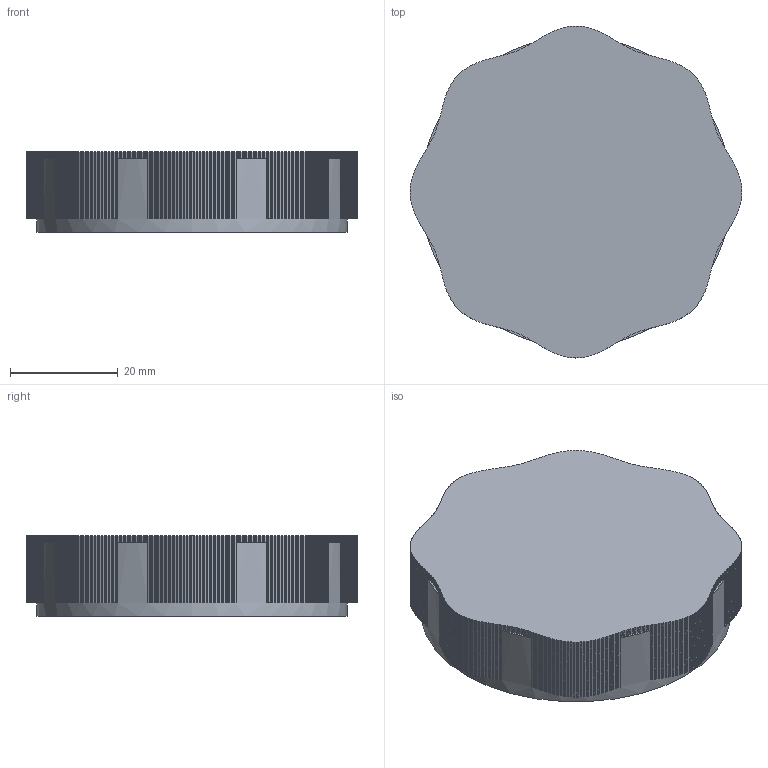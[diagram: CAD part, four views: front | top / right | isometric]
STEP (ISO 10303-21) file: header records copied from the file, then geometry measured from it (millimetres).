
FILE_DESCRIPTION(('Open CASCADE Model'),'2;1');
FILE_NAME('Open CASCADE Shape Model','2026-11-13T05:00:00',('Author'),( 'Open CASCADE'),'Open CASCADE STEP processor 7.9','Open CASCADE 7.9' ,'Unknown');
FILE_SCHEMA(('AUTOMOTIVE_DESIGN { 1 0 10303 214 1 1 1 1 }'));
Products named in the file (1): Open CASCADE STEP translator 7.9 10
Bounding box: 61.6 x 61.6 x 15 mm (x, y, z)
Volume: 13220.3 mm3; surface area: 10842 mm2
Topology: 1 solids, 1 shells, 757 faces, 2253 edges, 1502 vertices
Faces by surface type: plane 750, cylinder 7
Full cylindrical faces by diameter (mm): 50 x1, 51.95 x1, 57.6 x1
Entity records: 53748 total; most frequent: CARTESIAN_POINT 9555, DIRECTION 7829, LINE 6235, VECTOR 6235, ORIENTED_EDGE 4506, PCURVE 4506, DEFINITIONAL_REPRESENTATION 4506, EDGE_CURVE 2253
